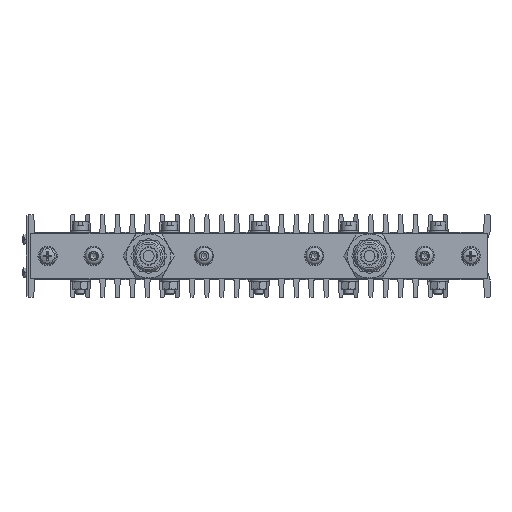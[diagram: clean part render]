
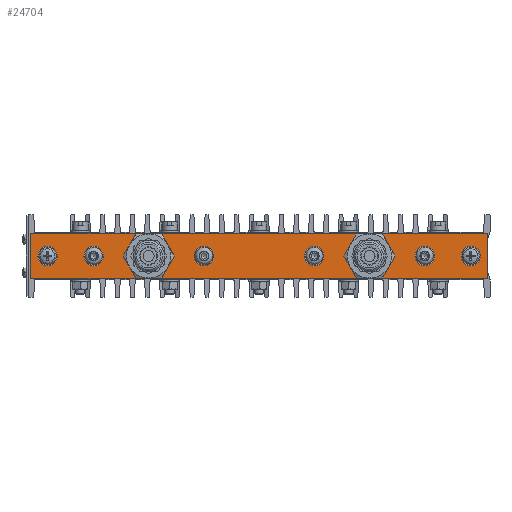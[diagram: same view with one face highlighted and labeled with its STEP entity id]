
A CAD part, front view. The second image highlights one B-rep face of the part: STEP entity #24704.
In plain terms, the highlighted planar face has unit normal (0, -1, 0).
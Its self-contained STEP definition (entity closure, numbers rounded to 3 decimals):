
#683=LINE($,#37011,#2051);
#684=LINE($,#37013,#2052);
#685=LINE($,#37015,#2053);
#686=LINE($,#37016,#2054);
#2051=VECTOR($,#29735,248.);
#2052=VECTOR($,#29736,25.);
#2053=VECTOR($,#29737,248.);
#2054=VECTOR($,#29738,25.);
#3940=PLANE($,#26413);
#4691=FACE_BOUND($,#6948,.T.);
#4692=FACE_BOUND($,#6949,.T.);
#4693=FACE_BOUND($,#6950,.T.);
#4694=FACE_BOUND($,#6951,.T.);
#4695=FACE_BOUND($,#6952,.T.);
#4696=FACE_BOUND($,#6953,.T.);
#4697=FACE_BOUND($,#6954,.T.);
#4698=FACE_BOUND($,#6955,.T.);
#4699=FACE_BOUND($,#6956,.T.);
#6948=EDGE_LOOP($,(#16412));
#6949=EDGE_LOOP($,(#16413));
#6950=EDGE_LOOP($,(#16414));
#6951=EDGE_LOOP($,(#16415));
#6952=EDGE_LOOP($,(#16416));
#6953=EDGE_LOOP($,(#16417));
#6954=EDGE_LOOP($,(#16418));
#6955=EDGE_LOOP($,(#16419,#16420,#16421,#16422));
#6956=EDGE_LOOP($,(#16423));
#8984=CIRCLE($,#26412,12.);
#8985=CIRCLE($,#26414,12.);
#8986=CIRCLE($,#26415,5.25);
#8987=CIRCLE($,#26416,5.25);
#8988=CIRCLE($,#26417,5.25);
#8989=CIRCLE($,#26418,5.25);
#8990=CIRCLE($,#26419,5.25);
#8991=CIRCLE($,#26420,5.25);
#10310=VERTEX_POINT($,#36992);
#10311=VERTEX_POINT($,#36995);
#10312=VERTEX_POINT($,#36997);
#10313=VERTEX_POINT($,#36999);
#10314=VERTEX_POINT($,#37001);
#10315=VERTEX_POINT($,#37003);
#10316=VERTEX_POINT($,#37005);
#10317=VERTEX_POINT($,#37007);
#10318=VERTEX_POINT($,#37009);
#10319=VERTEX_POINT($,#37010);
#10320=VERTEX_POINT($,#37012);
#10321=VERTEX_POINT($,#37014);
#12757=EDGE_CURVE($,#10310,#10310,#8984,.T.);
#12758=EDGE_CURVE($,#10311,#10311,#8985,.T.);
#12759=EDGE_CURVE($,#10312,#10312,#8986,.T.);
#12760=EDGE_CURVE($,#10313,#10313,#8987,.T.);
#12761=EDGE_CURVE($,#10314,#10314,#8988,.T.);
#12762=EDGE_CURVE($,#10315,#10315,#8989,.T.);
#12763=EDGE_CURVE($,#10316,#10316,#8990,.T.);
#12764=EDGE_CURVE($,#10317,#10317,#8991,.T.);
#12765=EDGE_CURVE($,#10318,#10319,#683,.T.);
#12766=EDGE_CURVE($,#10319,#10320,#684,.T.);
#12767=EDGE_CURVE($,#10320,#10321,#685,.T.);
#12768=EDGE_CURVE($,#10321,#10318,#686,.T.);
#16412=ORIENTED_EDGE($,*,*,#12758,.T.);
#16413=ORIENTED_EDGE($,*,*,#12759,.T.);
#16414=ORIENTED_EDGE($,*,*,#12760,.T.);
#16415=ORIENTED_EDGE($,*,*,#12761,.T.);
#16416=ORIENTED_EDGE($,*,*,#12762,.T.);
#16417=ORIENTED_EDGE($,*,*,#12763,.T.);
#16418=ORIENTED_EDGE($,*,*,#12764,.T.);
#16419=ORIENTED_EDGE($,*,*,#12765,.T.);
#16420=ORIENTED_EDGE($,*,*,#12766,.T.);
#16421=ORIENTED_EDGE($,*,*,#12767,.T.);
#16422=ORIENTED_EDGE($,*,*,#12768,.T.);
#16423=ORIENTED_EDGE($,*,*,#12757,.T.);
#24704=ADVANCED_FACE($,(#4691,#4692,#4693,#4694,#4695,#4696,#4697,#4698,
#4699),#3940,.F.);
#26412=AXIS2_PLACEMENT_3D($,#36993,#29717,#29718);
#26413=AXIS2_PLACEMENT_3D($,#36994,#29719,#29720);
#26414=AXIS2_PLACEMENT_3D($,#36996,#29721,#29722);
#26415=AXIS2_PLACEMENT_3D($,#36998,#29723,#29724);
#26416=AXIS2_PLACEMENT_3D($,#37000,#29725,#29726);
#26417=AXIS2_PLACEMENT_3D($,#37002,#29727,#29728);
#26418=AXIS2_PLACEMENT_3D($,#37004,#29729,#29730);
#26419=AXIS2_PLACEMENT_3D($,#37006,#29731,#29732);
#26420=AXIS2_PLACEMENT_3D($,#37008,#29733,#29734);
#29717=DIRECTION('center_axis',(0.,1.,0.));
#29718=DIRECTION('ref_axis',(1.,0.,0.));
#29719=DIRECTION('center_axis',(0.,1.,0.));
#29720=DIRECTION('ref_axis',(0.,0.,1.));
#29721=DIRECTION('center_axis',(0.,1.,0.));
#29722=DIRECTION('ref_axis',(1.,0.,0.));
#29723=DIRECTION('center_axis',(0.,1.,0.));
#29724=DIRECTION('ref_axis',(-1.,0.,0.));
#29725=DIRECTION('center_axis',(0.,1.,0.));
#29726=DIRECTION('ref_axis',(-1.,0.,0.));
#29727=DIRECTION('center_axis',(0.,1.,0.));
#29728=DIRECTION('ref_axis',(-1.,0.,0.));
#29729=DIRECTION('center_axis',(0.,1.,0.));
#29730=DIRECTION('ref_axis',(1.,0.,0.));
#29731=DIRECTION('center_axis',(0.,1.,0.));
#29732=DIRECTION('ref_axis',(1.,0.,0.));
#29733=DIRECTION('center_axis',(0.,1.,0.));
#29734=DIRECTION('ref_axis',(1.,0.,0.));
#29735=DIRECTION($,(1.,0.,0.));
#29736=DIRECTION($,(0.,0.,1.));
#29737=DIRECTION($,(-1.,0.,0.));
#29738=DIRECTION($,(0.,0.,-1.));
#36992=CARTESIAN_POINT('',(48.,-8.,0.));
#36993=CARTESIAN_POINT('Origin',(60.,-8.,0.));
#36994=CARTESIAN_POINT('Origin',(0.,-8.,0.));
#36995=CARTESIAN_POINT('',(-72.,-8.,0.));
#36996=CARTESIAN_POINT('Origin',(-60.,-8.,0.));
#36997=CARTESIAN_POINT('',(109.75,-8.,0.));
#36998=CARTESIAN_POINT('Origin',(115.,-8.,0.));
#36999=CARTESIAN_POINT('',(84.75,-8.,0.));
#37000=CARTESIAN_POINT('Origin',(90.,-8.,0.));
#37001=CARTESIAN_POINT('',(24.75,-8.,0.));
#37002=CARTESIAN_POINT('Origin',(30.,-8.,0.));
#37003=CARTESIAN_POINT('',(-109.75,-8.,0.));
#37004=CARTESIAN_POINT('Origin',(-115.,-8.,0.));
#37005=CARTESIAN_POINT('',(-84.75,-8.,0.));
#37006=CARTESIAN_POINT('Origin',(-90.,-8.,0.));
#37007=CARTESIAN_POINT('',(-24.75,-8.,0.));
#37008=CARTESIAN_POINT('Origin',(-30.,-8.,0.));
#37009=CARTESIAN_POINT('',(-124.,-8.,-12.5));
#37010=CARTESIAN_POINT('',(124.,-8.,-12.5));
#37011=CARTESIAN_POINT($,(-124.,-8.,-12.5));
#37012=CARTESIAN_POINT('',(124.,-8.,12.5));
#37013=CARTESIAN_POINT($,(124.,-8.,-12.5));
#37014=CARTESIAN_POINT('',(-124.,-8.,12.5));
#37015=CARTESIAN_POINT($,(124.,-8.,12.5));
#37016=CARTESIAN_POINT($,(-124.,-8.,12.5));
